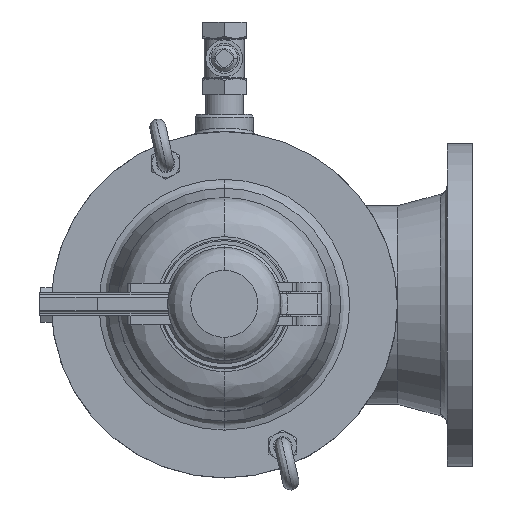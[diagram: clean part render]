
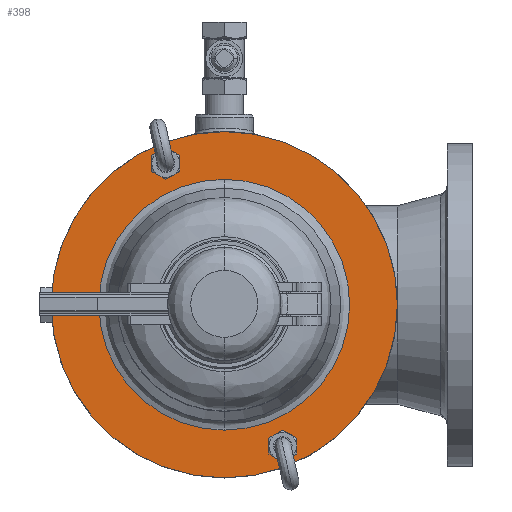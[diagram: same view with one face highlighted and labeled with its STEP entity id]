
A CAD part, top view. The second image highlights one B-rep face of the part: STEP entity #398.
In plain terms, the highlighted planar face has unit normal (0, 0, 1) as drawn and (0, 1, 0) by its records, which use the part's own axes.
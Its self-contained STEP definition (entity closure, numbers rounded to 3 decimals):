
#398=ADVANCED_FACE('',(#864,#865,#866,#867),#863,.T.);
#863=PLANE('',#5594);
#864=FACE_OUTER_BOUND('',#5595,.T.);
#865=FACE_BOUND('',#5596,.T.);
#866=FACE_BOUND('',#5597,.T.);
#867=FACE_BOUND('',#5598,.T.);
#5591=CARTESIAN_POINT('',(-269.808,155.5,-310.));
#5592=DIRECTION('',(0.,1.,0.));
#5593=DIRECTION('',(0.,0.,1.));
#5594=AXIS2_PLACEMENT_3D('',#5591,#5592,#5593);
#5595=EDGE_LOOP('',(#19821,#19822));
#5596=EDGE_LOOP('',(#19823,#19824));
#5597=EDGE_LOOP('',(#19825,#19826));
#5598=EDGE_LOOP('',(#19827,#19828));
#19821=ORIENTED_EDGE('',*,*,#22177,.T.);
#19822=ORIENTED_EDGE('',*,*,#22178,.T.);
#19823=ORIENTED_EDGE('',*,*,#22179,.F.);
#19824=ORIENTED_EDGE('',*,*,#22180,.F.);
#19825=ORIENTED_EDGE('',*,*,#22181,.F.);
#19826=ORIENTED_EDGE('',*,*,#22182,.F.);
#19827=ORIENTED_EDGE('',*,*,#22183,.T.);
#19828=ORIENTED_EDGE('',*,*,#22184,.T.);
#22177=EDGE_CURVE('',#23355,#23356,#23357,.T.);
#22178=EDGE_CURVE('',#23356,#23355,#23363,.T.);
#22179=EDGE_CURVE('',#23369,#23370,#23371,.T.);
#22180=EDGE_CURVE('',#23370,#23369,#23377,.T.);
#22181=EDGE_CURVE('',#23383,#23384,#23385,.T.);
#22182=EDGE_CURVE('',#23384,#23383,#23391,.T.);
#22183=EDGE_CURVE('',#23397,#23398,#23399,.T.);
#22184=EDGE_CURVE('',#23398,#23397,#23405,.T.);
#23355=VERTEX_POINT('',#31182);
#23356=VERTEX_POINT('',#31183);
#23357=CIRCLE('',#31187,150.);
#23363=CIRCLE('',#31191,150.);
#23369=VERTEX_POINT('',#31192);
#23370=VERTEX_POINT('',#31193);
#23371=CIRCLE('',#31197,9.5);
#23377=CIRCLE('',#31201,9.5);
#23383=VERTEX_POINT('',#31202);
#23384=VERTEX_POINT('',#31203);
#23385=CIRCLE('',#31207,9.5);
#23391=CIRCLE('',#31211,9.5);
#23397=VERTEX_POINT('',#31212);
#23398=VERTEX_POINT('',#31213);
#23399=CIRCLE('',#31217,108.639);
#23405=CIRCLE('',#31221,108.639);
#31182=CARTESIAN_POINT('',(0.,155.5,150.));
#31183=CARTESIAN_POINT('',(0.,155.5,-150.));
#31184=CARTESIAN_POINT('',(0.,155.5,0.));
#31185=DIRECTION('',(0.,1.,0.));
#31186=DIRECTION('',(0.,0.,1.));
#31187=AXIS2_PLACEMENT_3D('',#31184,#31185,#31186);
#31188=CARTESIAN_POINT('',(0.,155.5,0.));
#31189=DIRECTION('',(0.,1.,0.));
#31190=DIRECTION('',(0.,0.,1.));
#31191=AXIS2_PLACEMENT_3D('',#31188,#31189,#31190);
#31192=CARTESIAN_POINT('',(-50.706,155.5,-131.914));
#31193=CARTESIAN_POINT('',(-50.706,155.5,-112.914));
#31194=CARTESIAN_POINT('',(-50.706,155.5,-122.414));
#31195=DIRECTION('',(0.,1.,0.));
#31196=DIRECTION('',(0.,0.,1.));
#31197=AXIS2_PLACEMENT_3D('',#31194,#31195,#31196);
#31198=CARTESIAN_POINT('',(-50.706,155.5,-122.414));
#31199=DIRECTION('',(0.,1.,0.));
#31200=DIRECTION('',(0.,0.,1.));
#31201=AXIS2_PLACEMENT_3D('',#31198,#31199,#31200);
#31202=CARTESIAN_POINT('',(50.706,155.5,112.914));
#31203=CARTESIAN_POINT('',(50.706,155.5,131.914));
#31204=CARTESIAN_POINT('',(50.706,155.5,122.414));
#31205=DIRECTION('',(0.,1.,0.));
#31206=DIRECTION('',(0.,0.,1.));
#31207=AXIS2_PLACEMENT_3D('',#31204,#31205,#31206);
#31208=CARTESIAN_POINT('',(50.706,155.5,122.414));
#31209=DIRECTION('',(0.,1.,0.));
#31210=DIRECTION('',(0.,0.,1.));
#31211=AXIS2_PLACEMENT_3D('',#31208,#31209,#31210);
#31212=CARTESIAN_POINT('',(0.,155.5,108.639));
#31213=CARTESIAN_POINT('',(0.,155.5,-108.639));
#31214=CARTESIAN_POINT('',(0.,155.5,0.));
#31215=DIRECTION('',(0.,-1.,0.));
#31216=DIRECTION('',(0.,0.,1.));
#31217=AXIS2_PLACEMENT_3D('',#31214,#31215,#31216);
#31218=CARTESIAN_POINT('',(0.,155.5,0.));
#31219=DIRECTION('',(0.,-1.,0.));
#31220=DIRECTION('',(0.,0.,1.));
#31221=AXIS2_PLACEMENT_3D('',#31218,#31219,#31220);
